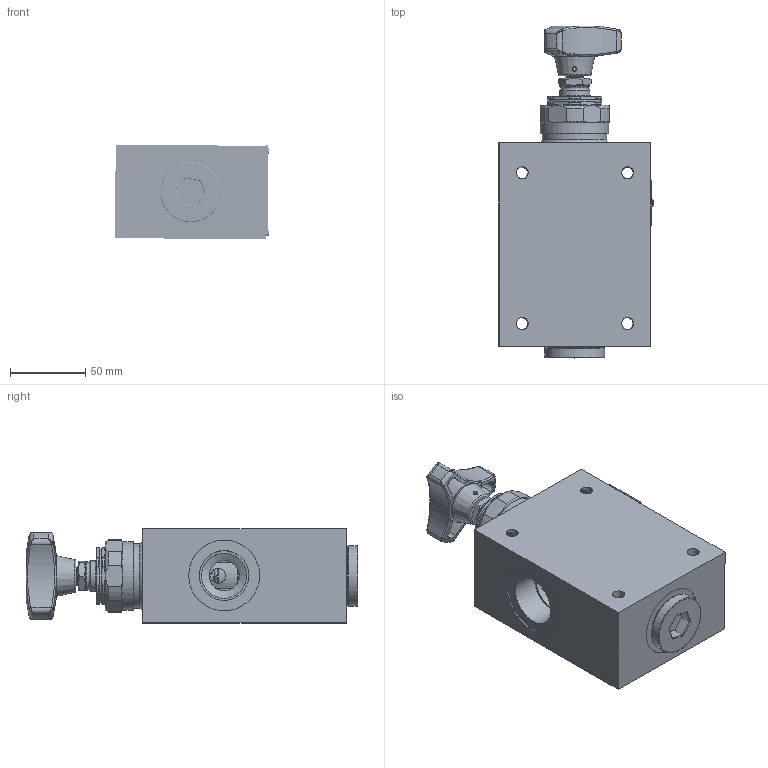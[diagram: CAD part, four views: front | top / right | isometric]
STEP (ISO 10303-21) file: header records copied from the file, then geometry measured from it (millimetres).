
FILE_DESCRIPTION(/* description */ (''),/* implementation_level */ '2;1');
FILE_NAME(/* name */ 'DBDH20G.stp',/* time_stamp */ '2024-08-27T13:19:31+08:00',/* author */ (''),/* organization */ (''),/* preprocessor_version */ 'ST-DEVELOPER v16.7',/* originating_system */ 'SIEMENS PLM Software NX 12.0',/* authorisation */ '');
FILE_SCHEMA (('AUTOMOTIVE_DESIGN { 1 0 10303 214 3 1 1 1 }'));
Products named in the file (1): DBD20G
Bounding box: 102.24 x 220.3 x 62.76 mm (x, y, z)
Volume: 799566.4 mm3; surface area: 160730.9 mm2
Topology: 26 solids, 26 shells, 801 faces, 1894 edges, 1161 vertices
Faces by surface type: plane 316, cylinder 231, bspline 97, cone 96, torus 60, sphere 1
Full cylindrical faces by diameter (mm): 1 x1, 1.5 x4, 1.8 x4, 1.9 x2, 3 x2, 3.1 x2, 4 x3, 5.4 x2, 5.5 x3, 6 x5, 7.8 x1, 8 x4, 9.4 x5, 9.7 x3, 10 x17, 10.2 x4, 11.7 x2, 12.4 x1, 13.4 x1, 17 x3, 17.5 x1, 19.7 x1, 20 x3, 24 x1, 26 x1, 27.3 x1, 28 x2, 28.5 x3, 29 x2, 30 x3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
Entity records: 78876 total; most frequent: CARTESIAN_POINT 62504, ORIENTED_EDGE 3218, DIRECTION 3010, EDGE_CURVE 1609, AXIS2_PLACEMENT_3D 1314, EDGE_LOOP 1122, VERTEX_POINT 1112, ADVANCED_FACE 801
